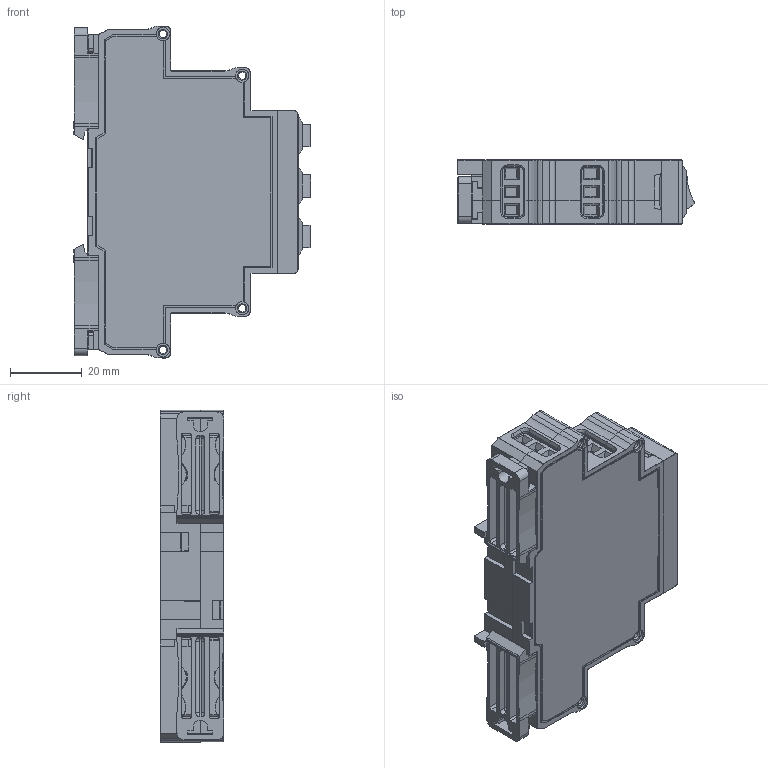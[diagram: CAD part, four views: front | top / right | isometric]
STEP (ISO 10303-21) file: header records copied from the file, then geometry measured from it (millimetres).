
FILE_DESCRIPTION(('STEP AP242'), '1');
FILE_NAME('ﾑ碚濱ﾏﾊﾌ-3', '', ('UNSPECIFIED'), ('UNSPECIFIED'), 'C3D Converter', 'C3D Toolkit', '');
FILE_SCHEMA(('AP242_MANAGED_MODEL_BASED_3D_ENGINEERING_MIM_LF { 1 0 10303 442 1 1 4 }'));
Length unit declared in the file: millimetre
Products named in the file (12): Case_UC1-2sR-2024_SimpleModel_6mm; Case_UC1-2sR-2024_SimpleModel_11mm; UC1-2sR-2024_Plug_18mm; Case_UC1-2sR_Face_2024_18mm__FR.FP.0000001; Case13-18-23mm_2step_Lock_v01a_Build20140909_1552; DG128-5.08_Configurable_5.08x3; FDB4302D-95A0-4C39-9449-F4B4CCE469AD
Assembly tree (16 placements, depth 2):
  (unnamed)
    Case_UC1-2sR-2024_SimpleModel_6mm
    Case_UC1-2sR-2024_SimpleModel_11mm
    UC1-2sR-2024_Plug_18mm
    Case_UC1-2sR_Face_2024_18mm__FR.FP.0000001
    Case13-18-23mm_2step_Lock_v01a_Build20140909_1552  x2
    DG128-5.08_Configurable_5.08x3  x3
    FDB4302D-95A0-4C39-9449-F4B4CCE469AD  x3
    (unnamed)
    (unnamed)
    (unnamed)
    (unnamed)
Bounding box: 66.03 x 17.75 x 92.4 mm (x, y, z)
Volume: 27582.6 mm3; surface area: 41744.1 mm2
Topology: 47 solids, 47 shells, 3633 faces, 9935 edges, 6408 vertices
Faces by surface type: plane 2322, extrusion 576, cylinder 459, torus 112, bspline 80, cone 48, sphere 36
Full cylindrical faces by diameter (mm): 1.238 x9, 1.8 x6, 2 x6, 2.1 x8, 3.7 x8, 3.9 x9
Entity records: 120656 total; most frequent: CARTESIAN_POINT 24498, ORIENTED_EDGE 15982, DIRECTION 12753, EDGE_CURVE 7991, VECTOR 6303, LINE 5727, VERTEX_POINT 5190, AXIS2_PLACEMENT_3D 3225
